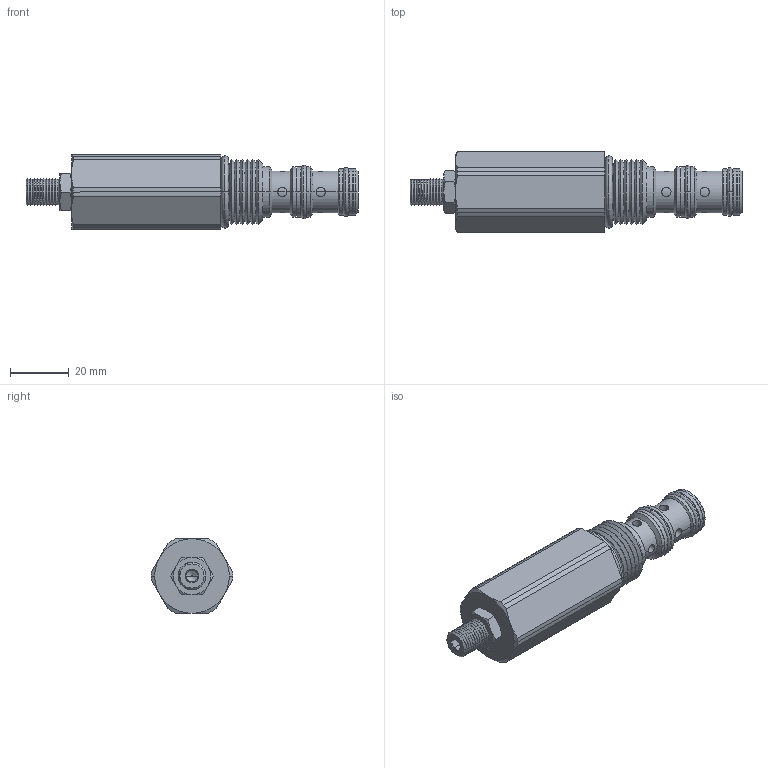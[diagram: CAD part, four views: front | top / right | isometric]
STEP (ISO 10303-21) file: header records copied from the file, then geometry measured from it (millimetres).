
FILE_DESCRIPTION((''),'2;1');
FILE_NAME('U:\Solid model CD\Solid model full\Mechanical\STEP\DFPWP00-3D Full.stp','2008-07-29T09:23:12',('Dan'),(''),'Autodesk Inventor 9','Autodesk Inventor 9','');
FILE_SCHEMA(('AUTOMOTIVE_DESIGN { 1 0 10303 214 1 1 1 1 }'));
Length unit declared in the file: inch
Products named in the file (7): DFPWP00-3D Full; DFPWP00-3D Full1; DFPWP00-3D Full2; DFPWP00-3D Full3; DFPWP00-3D Full4; DFPWP00-3D Full5; DFPWP00-3D Full6
Assembly tree (6 placements, depth 2):
  DFPWP00-3D Full
    DFPWP00-3D Full1
    DFPWP00-3D Full2
    DFPWP00-3D Full3
    DFPWP00-3D Full4
    DFPWP00-3D Full5
    DFPWP00-3D Full6
Bounding box: 112.98 x 27.69 x 25.4 mm (x, y, z)
Volume: 40166.5 mm3; surface area: 11101.1 mm2
Topology: 6 solids, 6 shells, 241 faces, 531 edges, 311 vertices
Faces by surface type: cone 114, cylinder 64, plane 39, bspline 20, torus 4
Entity records: 7581 total; most frequent: CARTESIAN_POINT 2292, DIRECTION 1113, ORIENTED_EDGE 1062, EDGE_CURVE 531, AXIS2_PLACEMENT_3D 464, VERTEX_POINT 311, EDGE_LOOP 260, FACE_OUTER_BOUND 241
